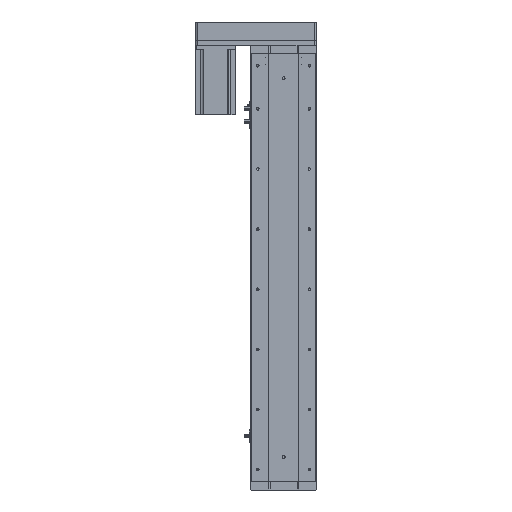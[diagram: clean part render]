
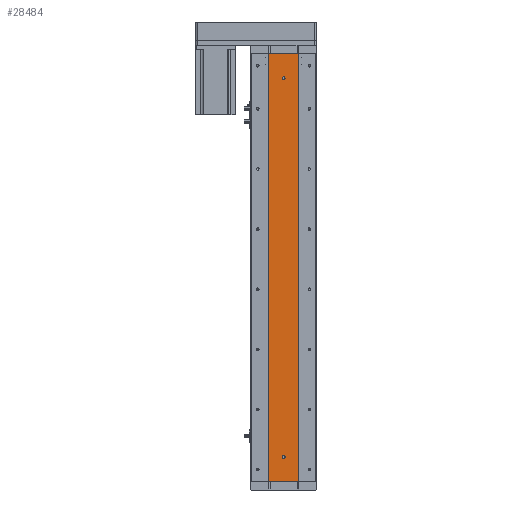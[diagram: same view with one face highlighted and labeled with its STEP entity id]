
A CAD part, left-side view. The second image highlights one B-rep face of the part: STEP entity #28484.
In plain terms, the highlighted planar face has unit normal (-1, 0, 0).
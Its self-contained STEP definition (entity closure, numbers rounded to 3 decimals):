
#432 = EDGE_CURVE ( 'NONE', #30504, #7138, #46020, .T. ) ;
#705 = EDGE_CURVE ( 'NONE', #7309, #44200, #40577, .T. ) ;
#1979 = DIRECTION ( 'NONE',  ( 0., -1., 0. ) ) ;
#2417 = FACE_BOUND ( 'NONE', #44361, .T. ) ;
#2427 = DIRECTION ( 'NONE',  ( 0., 0., 1. ) ) ;
#2972 = AXIS2_PLACEMENT_3D ( 'NONE', #42526, #20689, #46278 ) ;
#3054 = VECTOR ( 'NONE', #14466, 1000. ) ;
#3168 = ORIENTED_EDGE ( 'NONE', *, *, #41197, .F. ) ;
#3866 = CARTESIAN_POINT ( 'NONE',  ( -24.994, 29.785, 856. ) ) ;
#5220 = CARTESIAN_POINT ( 'NONE',  ( -24.994, 0., 806. ) ) ;
#6217 = EDGE_CURVE ( 'NONE', #37855, #15259, #33415, .T. ) ;
#7138 = VERTEX_POINT ( 'NONE', #29161 ) ;
#7291 = EDGE_LOOP ( 'NONE', ( #39120, #42017, #43514, #42625 ) ) ;
#7309 = VERTEX_POINT ( 'NONE', #30080 ) ;
#8161 = CARTESIAN_POINT ( 'NONE',  ( -24.994, 0., 50. ) ) ;
#8880 = DIRECTION ( 'NONE',  ( 0., 0., 1. ) ) ;
#11790 = DIRECTION ( 'NONE',  ( 0., 0., 1. ) ) ;
#11847 = CARTESIAN_POINT ( 'NONE',  ( -24.994, -29.785, 856. ) ) ;
#13370 = CARTESIAN_POINT ( 'NONE',  ( -24.994, 0., 806. ) ) ;
#14075 = CARTESIAN_POINT ( 'NONE',  ( -24.994, 0., 803. ) ) ;
#14466 = DIRECTION ( 'NONE',  ( 0., 0., -1. ) ) ;
#14617 = EDGE_CURVE ( 'NONE', #7309, #37855, #35085, .T. ) ;
#14657 = DIRECTION ( 'NONE',  ( 0., -1., 0. ) ) ;
#14885 = VERTEX_POINT ( 'NONE', #16376 ) ;
#15259 = VERTEX_POINT ( 'NONE', #29541 ) ;
#16376 = CARTESIAN_POINT ( 'NONE',  ( -24.994, 0., 809. ) ) ;
#16417 = CARTESIAN_POINT ( 'NONE',  ( -24.994, 29.785, 0. ) ) ;
#16900 = PLANE ( 'NONE',  #2972 ) ;
#17033 = DIRECTION ( 'NONE',  ( 0., 0., 1. ) ) ;
#20689 = DIRECTION ( 'NONE',  ( 1., 0., 0. ) ) ;
#21539 = CIRCLE ( 'NONE', #29352, 3. ) ;
#21708 = FACE_OUTER_BOUND ( 'NONE', #7291, .T. ) ;
#22548 = DIRECTION ( 'NONE',  ( 0., 0., -1. ) ) ;
#23993 = FACE_BOUND ( 'NONE', #25106, .T. ) ;
#24165 = DIRECTION ( 'NONE',  ( -1., 0., 0. ) ) ;
#24894 = VECTOR ( 'NONE', #22548, 1000. ) ;
#25106 = EDGE_LOOP ( 'NONE', ( #3168, #39150 ) ) ;
#25139 = VECTOR ( 'NONE', #1979, 1000. ) ;
#28399 = EDGE_CURVE ( 'NONE', #44200, #15259, #34808, .T. ) ;
#28484 = ADVANCED_FACE ( 'NONE', ( #23993, #2417, #21708 ), #16900, .F. ) ;
#29100 = CARTESIAN_POINT ( 'NONE',  ( -24.994, 29.785, 856. ) ) ;
#29161 = CARTESIAN_POINT ( 'NONE',  ( -24.994, 0., 53. ) ) ;
#29352 = AXIS2_PLACEMENT_3D ( 'NONE', #5220, #30590, #8880 ) ;
#29541 = CARTESIAN_POINT ( 'NONE',  ( -24.994, -29.785, 0. ) ) ;
#30080 = CARTESIAN_POINT ( 'NONE',  ( -24.994, 29.785, 856. ) ) ;
#30504 = VERTEX_POINT ( 'NONE', #33135 ) ;
#30550 = CARTESIAN_POINT ( 'NONE',  ( -24.994, 29.785, 0. ) ) ;
#30590 = DIRECTION ( 'NONE',  ( -1., 0., 0. ) ) ;
#32240 = EDGE_CURVE ( 'NONE', #40520, #14885, #21539, .T. ) ;
#33135 = CARTESIAN_POINT ( 'NONE',  ( -24.994, 0., 47. ) ) ;
#33415 = LINE ( 'NONE', #44451, #24894 ) ;
#33530 = DIRECTION ( 'NONE',  ( -1., 0., 0. ) ) ;
#34808 = LINE ( 'NONE', #16417, #25139 ) ;
#35085 = LINE ( 'NONE', #3866, #37352 ) ;
#35139 = ORIENTED_EDGE ( 'NONE', *, *, #432, .F. ) ;
#37352 = VECTOR ( 'NONE', #14657, 1000. ) ;
#37388 = AXIS2_PLACEMENT_3D ( 'NONE', #46120, #24165, #2427 ) ;
#37570 = CIRCLE ( 'NONE', #42851, 3. ) ;
#37855 = VERTEX_POINT ( 'NONE', #11847 ) ;
#38726 = CIRCLE ( 'NONE', #41419, 3. ) ;
#38807 = DIRECTION ( 'NONE',  ( -1., 0., 0. ) ) ;
#39120 = ORIENTED_EDGE ( 'NONE', *, *, #28399, .T. ) ;
#39150 = ORIENTED_EDGE ( 'NONE', *, *, #32240, .F. ) ;
#39924 = ORIENTED_EDGE ( 'NONE', *, *, #44645, .F. ) ;
#40520 = VERTEX_POINT ( 'NONE', #14075 ) ;
#40577 = LINE ( 'NONE', #29100, #3054 ) ;
#41197 = EDGE_CURVE ( 'NONE', #14885, #40520, #38726, .T. ) ;
#41419 = AXIS2_PLACEMENT_3D ( 'NONE', #13370, #38807, #17033 ) ;
#42017 = ORIENTED_EDGE ( 'NONE', *, *, #6217, .F. ) ;
#42526 = CARTESIAN_POINT ( 'NONE',  ( -24.994, 29.785, 856. ) ) ;
#42625 = ORIENTED_EDGE ( 'NONE', *, *, #705, .T. ) ;
#42851 = AXIS2_PLACEMENT_3D ( 'NONE', #8161, #33530, #11790 ) ;
#43514 = ORIENTED_EDGE ( 'NONE', *, *, #14617, .F. ) ;
#44200 = VERTEX_POINT ( 'NONE', #30550 ) ;
#44361 = EDGE_LOOP ( 'NONE', ( #39924, #35139 ) ) ;
#44451 = CARTESIAN_POINT ( 'NONE',  ( -24.994, -29.785, 856. ) ) ;
#44645 = EDGE_CURVE ( 'NONE', #7138, #30504, #37570, .T. ) ;
#46020 = CIRCLE ( 'NONE', #37388, 3. ) ;
#46120 = CARTESIAN_POINT ( 'NONE',  ( -24.994, 0., 50. ) ) ;
#46278 = DIRECTION ( 'NONE',  ( 0., 0., -1. ) ) ;
